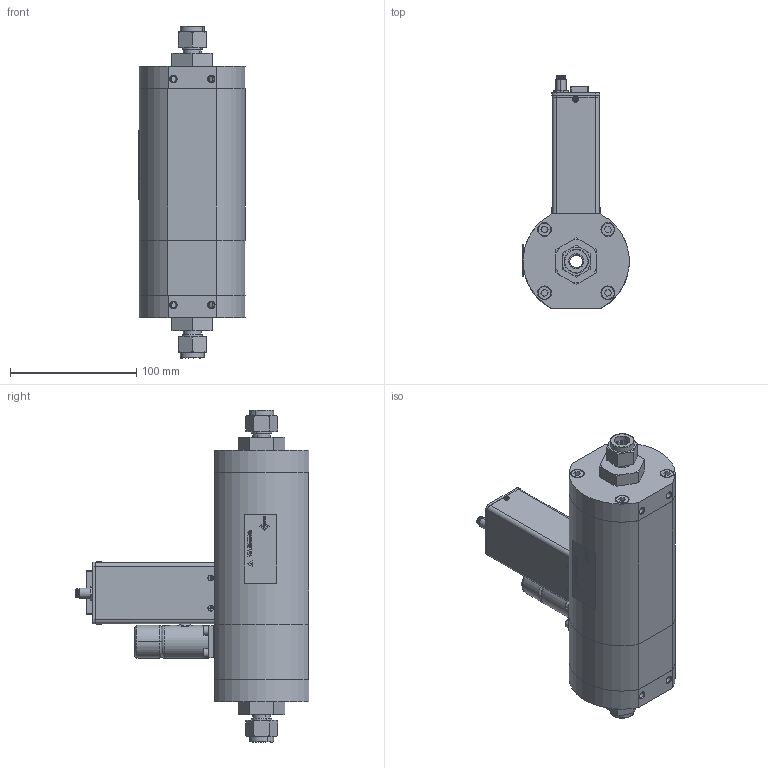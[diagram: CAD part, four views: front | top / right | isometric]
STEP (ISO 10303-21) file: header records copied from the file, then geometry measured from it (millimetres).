
FILE_DESCRIPTION (( 'STEP AP203' ), '1' );
FILE_NAME ('SLA5853-8-2X-2-A-REVB.STEP', '2020-09-04T18:46:55', ( '' ), ( '' ), 'SwSTEP 2.0', 'SolidWorks 2019', '' );
FILE_SCHEMA (( 'CONFIG_CONTROL_DESIGN' ));
Length unit declared in the file: inch
Products named in the file (2): SLA5853-8-2X-2-A-REVB
Bounding box: 84.02 x 184.93 x 262.8 mm (x, y, z)
Volume: 532166.2 mm3; surface area: 222389.2 mm2
Topology: 80 solids, 80 shells, 2626 faces, 6709 edges, 4326 vertices
Faces by surface type: plane 1544, cylinder 587, cone 342, bspline 153
Entity records: 89483 total; most frequent: CARTESIAN_POINT 25905, ORIENTED_EDGE 13342, DIRECTION 12745, EDGE_CURVE 6671, LINE 4573, VECTOR 4573, VERTEX_POINT 4326, AXIS2_PLACEMENT_3D 4086
